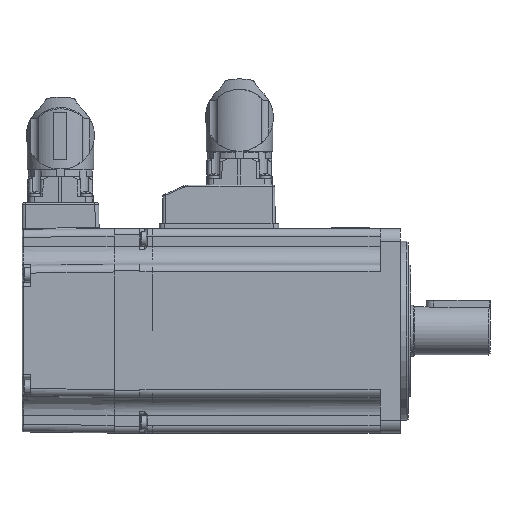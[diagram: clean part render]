
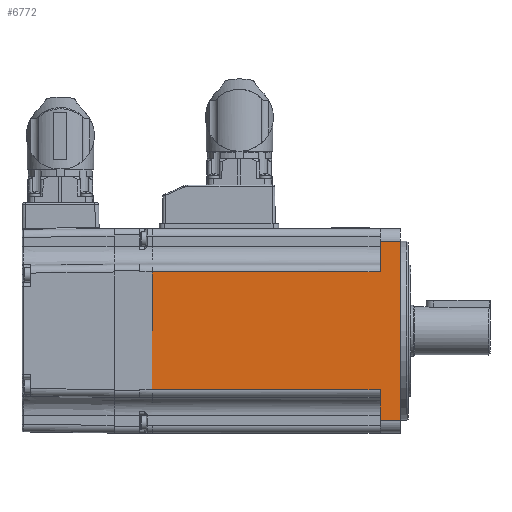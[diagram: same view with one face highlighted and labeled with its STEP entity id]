
A CAD part, left-side view. The second image highlights one B-rep face of the part: STEP entity #6772.
In plain terms, the highlighted planar face has unit normal (-1, 0, 0).
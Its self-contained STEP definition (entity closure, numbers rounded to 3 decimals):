
#6772 = ADVANCED_FACE( '', ( #14480 ), #14481, .T. );
#14480 = FACE_OUTER_BOUND( '', #31042, .T. );
#14481 = PLANE( '', #31043 );
#31042 = EDGE_LOOP( '', ( #51119, #51120, #51121, #51122, #51123, #51124, #51125, #51126, #51127, #51128 ) );
#31043 = AXIS2_PLACEMENT_3D( '', #51129, #51130, #51131 );
#51119 = ORIENTED_EDGE( '', *, *, #62074, .F. );
#51120 = ORIENTED_EDGE( '', *, *, #62075, .T. );
#51121 = ORIENTED_EDGE( '', *, *, #61693, .F. );
#51122 = ORIENTED_EDGE( '', *, *, #61831, .T. );
#51123 = ORIENTED_EDGE( '', *, *, #61515, .F. );
#51124 = ORIENTED_EDGE( '', *, *, #62076, .T. );
#51125 = ORIENTED_EDGE( '', *, *, #61980, .F. );
#51126 = ORIENTED_EDGE( '', *, *, #61959, .T. );
#51127 = ORIENTED_EDGE( '', *, *, #57667, .T. );
#51128 = ORIENTED_EDGE( '', *, *, #54826, .T. );
#51129 = CARTESIAN_POINT( '', ( -40., 188.347, 40. ) );
#51130 = DIRECTION( '', ( -1., 0., 0. ) );
#51131 = DIRECTION( '', ( 0., 0., 1. ) );
#54826 = EDGE_CURVE( '', #64224, #64222, #64225, .T. );
#57667 = EDGE_CURVE( '', #68945, #64224, #68946, .T. );
#61515 = EDGE_CURVE( '', #74216, #74218, #74219, .T. );
#61693 = EDGE_CURVE( '', #74420, #74422, #74423, .T. );
#61831 = EDGE_CURVE( '', #74420, #74218, #74575, .T. );
#61959 = EDGE_CURVE( '', #74714, #68945, #74715, .T. );
#61980 = EDGE_CURVE( '', #74714, #74738, #74739, .T. );
#62074 = EDGE_CURVE( '', #74841, #64222, #74842, .T. );
#62075 = EDGE_CURVE( '', #74841, #74422, #74843, .F. );
#62076 = EDGE_CURVE( '', #74216, #74738, #74844, .F. );
#64222 = VERTEX_POINT( '', #79425 );
#64224 = VERTEX_POINT( '', #79428 );
#64225 = LINE( '', #79429, #79430 );
#68945 = VERTEX_POINT( '', #89247 );
#68946 = LINE( '', #89248, #89249 );
#74216 = VERTEX_POINT( '', #101071 );
#74218 = VERTEX_POINT( '', #101073 );
#74219 = LINE( '', #101074, #101075 );
#74420 = VERTEX_POINT( '', #101480 );
#74422 = VERTEX_POINT( '', #101482 );
#74423 = LINE( '', #101483, #101484 );
#74575 = LINE( '', #101901, #101902 );
#74714 = VERTEX_POINT( '', #102196 );
#74715 = LINE( '', #102197, #102198 );
#74738 = VERTEX_POINT( '', #102235 );
#74739 = LINE( '', #102236, #102237 );
#74841 = VERTEX_POINT( '', #102393 );
#74842 = LINE( '', #102394, #102395 );
#74843 = LINE( '', #102396, #102397 );
#74844 = LINE( '', #102398, #102399 );
#79425 = CARTESIAN_POINT( '', ( -40., 88.311, 0. ) );
#79428 = CARTESIAN_POINT( '', ( -40., 88.311, 0.001 ) );
#79429 = CARTESIAN_POINT( '', ( -40., 88.311, -40. ) );
#79430 = VECTOR( '', #104742, 1000. );
#89247 = CARTESIAN_POINT( '', ( -40., 88.311, 23. ) );
#89248 = CARTESIAN_POINT( '', ( -40., 88.311, 40. ) );
#89249 = VECTOR( '', #108332, 1000. );
#101071 = CARTESIAN_POINT( '', ( -40., -8.689, 35. ) );
#101073 = CARTESIAN_POINT( '', ( -40., -8.689, -35. ) );
#101074 = CARTESIAN_POINT( '', ( -40., -8.689, 40. ) );
#101075 = VECTOR( '', #112409, 1000. );
#101480 = CARTESIAN_POINT( '', ( -40., -0.689, -35. ) );
#101482 = CARTESIAN_POINT( '', ( -40., -0.689, -23. ) );
#101483 = CARTESIAN_POINT( '', ( -40., -0.689, 40. ) );
#101484 = VECTOR( '', #112554, 1000. );
#101901 = CARTESIAN_POINT( '', ( -40., 188.347, -35. ) );
#101902 = VECTOR( '', #112633, 1000. );
#102196 = CARTESIAN_POINT( '', ( -40., -0.689, 23. ) );
#102197 = CARTESIAN_POINT( '', ( -40., 188.347, 23. ) );
#102198 = VECTOR( '', #112719, 1000. );
#102235 = CARTESIAN_POINT( '', ( -40., -0.689, 35. ) );
#102236 = CARTESIAN_POINT( '', ( -40., -0.689, 40. ) );
#102237 = VECTOR( '', #112731, 1000. );
#102393 = CARTESIAN_POINT( '', ( -40., 88.311, -23. ) );
#102394 = CARTESIAN_POINT( '', ( -40., 88.311, 40. ) );
#102395 = VECTOR( '', #112789, 1000. );
#102396 = CARTESIAN_POINT( '', ( -40., 188.347, -23. ) );
#102397 = VECTOR( '', #112790, 1000. );
#102398 = CARTESIAN_POINT( '', ( -40., 188.347, 35. ) );
#102399 = VECTOR( '', #112791, 1000. );
#104742 = DIRECTION( '', ( 0., 0., -1. ) );
#108332 = DIRECTION( '', ( 0., 0., -1. ) );
#112409 = DIRECTION( '', ( 0., 0., -1. ) );
#112554 = DIRECTION( '', ( 0., 0., 1. ) );
#112633 = DIRECTION( '', ( 0., -1., 0. ) );
#112719 = DIRECTION( '', ( 0., 1., 0. ) );
#112731 = DIRECTION( '', ( 0., 0., 1. ) );
#112789 = DIRECTION( '', ( 0., 0., 1. ) );
#112790 = DIRECTION( '', ( 0., 1., 0. ) );
#112791 = DIRECTION( '', ( 0., -1., 0. ) );
